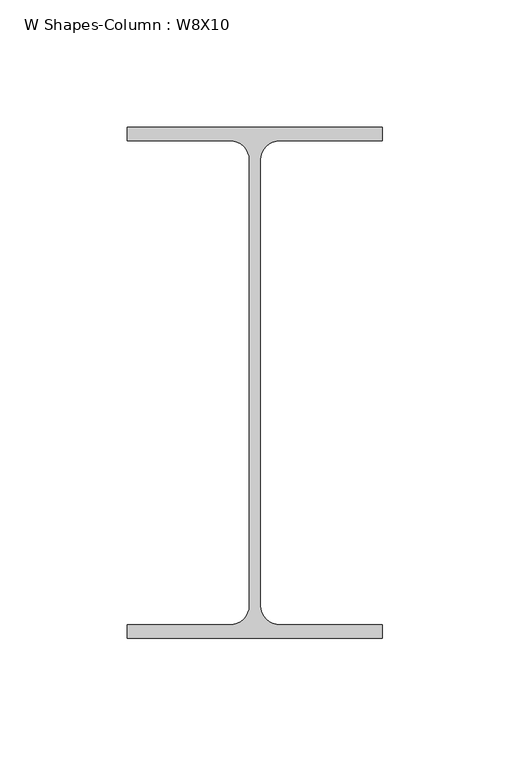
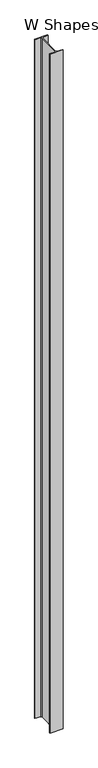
"""IFC4 building model written with IfcOpenShell, lengths in millimetres: column geometry, W Shapes-Column : W8X10."""

from ifc_helpers import new_model, si_unit, point, frame, frame_2d, origin, place, context, project, spatial, polyline, circle_curve, trimmed, segment, composite_curve, outline, extrude, source, transform, mapped, element, save


def w_shapes_column_w8x10_7c2514d8(model_context):
    return source(origin(), model_context, "Body", "SweptSolid", [
        extrude(outline(composite_curve([segment(polyline([(50.038, 100.203), (50.038, 94.996), (9.779, 94.996)]), True, "CONTINUOUS"), segment(trimmed(circle_curve(frame_2d((9.779, 87.376)), 7.62), [point((9.779, 94.996))], [point((2.159, 87.376))], True, "CARTESIAN"), True, "CONTINUOUS"), segment(polyline([(2.159, 87.376), (2.159, -87.376)]), True, "CONTINUOUS"), segment(trimmed(circle_curve(frame_2d((9.779, -87.376)), 7.62), [point((2.159, -87.376))], [point((9.779, -94.996))], True, "CARTESIAN"), True, "CONTINUOUS"), segment(polyline([(9.779, -94.996), (50.038, -94.996), (50.038, -100.203), (-50.038, -100.203), (-50.038, -94.996), (-9.779, -94.996)]), True, "CONTINUOUS"), segment(trimmed(circle_curve(frame_2d((-9.779, -87.376)), 7.62), [point((-9.779, -94.996))], [point((-2.159, -87.376))], True, "CARTESIAN"), True, "CONTINUOUS"), segment(polyline([(-2.159, -87.376), (-2.159, 87.376)]), True, "CONTINUOUS"), segment(trimmed(circle_curve(frame_2d((-9.779, 87.376)), 7.62), [point((-2.159, 87.376))], [point((-9.779, 94.996))], True, "CARTESIAN"), True, "CONTINUOUS"), segment(polyline([(-9.779, 94.996), (-50.038, 94.996), (-50.038, 100.203), (50.038, 100.203)]), True, "CONTINUOUS")], self_intersect=False)), frame((0.0, 0.0, -2438.4), z_axis=(0.0, 0.0, 1.0), x_axis=(1.0, 0.0, 0.0)), (0.0, 0.0, 1.0), 5486.4),
    ])


if __name__ == "__main__":
    model = new_model("IFC4")
    model_context = context("Model", 3, world=origin())
    ifc_project = project(units=[si_unit("LENGTHUNIT", "METRE", prefix="MILLI")], contexts=[model_context])
    site = spatial("IfcSite", under=ifc_project)
    building = spatial("IfcBuilding", under=site)
    placement = place(None, origin())
    w_shapes_column_w8x10_shape = w_shapes_column_w8x10_7c2514d8(model_context)
    element("IfcColumn", 1, ObjectType="W Shapes-Column : W8X10", at=placement, inside=building, context=model_context, shape_type="MappedRepresentation", body=[
        mapped(w_shapes_column_w8x10_shape, transform((0.0, 0.0, 0.0), x_axis=(1.0, 0.0, 0.0), y_axis=(0.0, 1.0, 0.0), z_axis=(0.0, 0.0, 1.0))),
    ])
    save(model, "model.ifc")
